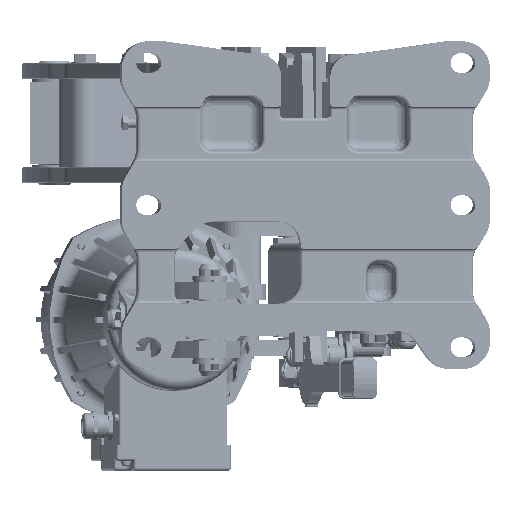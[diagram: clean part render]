
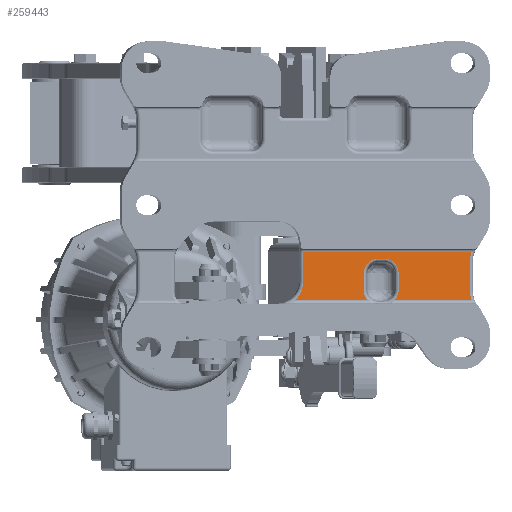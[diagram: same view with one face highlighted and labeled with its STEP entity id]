
A CAD part, front view. The second image highlights one B-rep face of the part: STEP entity #259443.
In plain terms, the highlighted planar face has unit normal (0.127, -0.992, 0).
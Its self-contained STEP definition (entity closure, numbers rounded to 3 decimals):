
#16854=DIRECTION('',(0.,0.,1.));
#16855=VECTOR('',#16854,26.151);
#16856=CARTESIAN_POINT('',(379.961,-511.901,
-153.075));
#16857=LINE('',#16856,#16855);
#16885=CARTESIAN_POINT('',(381.439,-511.712,
-162.103));
#17263=CARTESIAN_POINT('',(219.911,-532.388,
-162.103));
#17385=DIRECTION('',(0.992,0.127,0.));
#17386=VECTOR('',#17385,67.339);
#17387=CARTESIAN_POINT('',(219.911,-532.388,
-162.103));
#17388=LINE('',#17387,#17386);
#17392=CARTESIAN_POINT('',(407.841,-508.333,
-126.925));
#17393=DIRECTION('',(0.127,-0.992,0.));
#17394=DIRECTION('',(-0.939,-0.12,0.321));
#17395=AXIS2_PLACEMENT_3D('',#17392,#17393,#17394);
#17400=CARTESIAN_POINT('',(407.841,-508.333,
-153.075));
#17401=DIRECTION('',(0.127,-0.992,0.));
#17402=DIRECTION('',(-0.992,-0.127,0.));
#17403=AXIS2_PLACEMENT_3D('',#17400,#17401,#17402);
#17408=CARTESIAN_POINT('',(301.211,-521.981,-152.5));
#17409=DIRECTION('',(0.127,-0.992,0.));
#17410=DIRECTION('',(0.702,0.09,-0.706));
#17411=AXIS2_PLACEMENT_3D('',#17408,#17409,#17410);
#17416=CARTESIAN_POINT('',(301.211,-521.981,-137.5));
#17417=DIRECTION('',(0.127,-0.992,0.));
#17418=DIRECTION('',(0.992,0.127,0.));
#17419=AXIS2_PLACEMENT_3D('',#17416,#17417,#17418);
#17424=CARTESIAN_POINT('',(296.251,-522.616,-137.5));
#17425=DIRECTION('',(0.127,-0.992,0.));
#17426=DIRECTION('',(0.,0.,1.));
#17427=AXIS2_PLACEMENT_3D('',#17424,#17425,#17426);
#17432=CARTESIAN_POINT('',(296.251,-522.616,-152.5));
#17433=DIRECTION('',(0.127,-0.992,0.));
#17434=DIRECTION('',(-0.992,-0.127,0.));
#17435=AXIS2_PLACEMENT_3D('',#17432,#17433,#17434);
#17440=CARTESIAN_POINT('',(204.5,-534.36,-145.));
#17441=DIRECTION('',(0.127,-0.992,0.));
#17442=DIRECTION('',(0.667,0.085,-0.74));
#17443=AXIS2_PLACEMENT_3D('',#17440,#17441,#17442);
#17456=DIRECTION('',(-0.992,-0.127,
0.));
#17457=VECTOR('',#17456,155.276);
#17458=CARTESIAN_POINT('',(381.439,-511.712,
-117.897));
#17459=LINE('',#17458,#17457);
#17649=DIRECTION('',(0.,0.,-1.));
#17650=VECTOR('',#17649,27.103);
#17651=CARTESIAN_POINT('',(227.419,-531.427,
-117.897));
#17652=LINE('',#17651,#17650);
#17912=DIRECTION('',(0.992,0.127,0.));
#17913=VECTOR('',#17912,71.259);
#17914=CARTESIAN_POINT('',(310.757,-520.759,
-162.103));
#17915=LINE('',#17914,#17913);
#18030=DIRECTION('',(0.,0.,1.));
#18031=VECTOR('',#18030,15.);
#18032=CARTESIAN_POINT('',(282.766,-524.342,
-152.5));
#18033=LINE('',#18032,#18031);
#18068=DIRECTION('',(0.992,0.127,0.));
#18069=VECTOR('',#18068,5.);
#18070=CARTESIAN_POINT('',(296.251,-522.616,
-123.905));
#18071=LINE('',#18070,#18069);
#18106=DIRECTION('',(0.,0.,-1.));
#18107=VECTOR('',#18106,15.);
#18108=CARTESIAN_POINT('',(314.696,-520.255,
-137.5));
#18109=LINE('',#18108,#18107);
#210555=CARTESIAN_POINT('',(379.961,-511.901,
-153.075));
#210556=VERTEX_POINT('',#210555);
#210557=CARTESIAN_POINT('',(379.961,-511.901,
-126.925));
#210558=VERTEX_POINT('',#210557);
#210563=VERTEX_POINT('',#16885);
#210590=VERTEX_POINT('',#17263);
#210594=CARTESIAN_POINT('',(227.419,-531.427,-145.));
#210595=VERTEX_POINT('',#210594);
#210596=CARTESIAN_POINT('',(286.705,-523.838,
-162.103));
#210597=VERTEX_POINT('',#210596);
#210598=CARTESIAN_POINT('',(381.439,-511.712,
-117.897));
#210599=CARTESIAN_POINT('',(227.419,-531.427,
-117.897));
#210600=VERTEX_POINT('',#210598);
#210601=VERTEX_POINT('',#210599);
#210602=CARTESIAN_POINT('',(310.757,-520.759,
-162.103));
#210603=VERTEX_POINT('',#210602);
#210604=CARTESIAN_POINT('',(314.696,-520.255,
-152.5));
#210605=VERTEX_POINT('',#210604);
#210606=CARTESIAN_POINT('',(314.696,-520.255,
-137.5));
#210607=VERTEX_POINT('',#210606);
#210608=CARTESIAN_POINT('',(301.211,-521.981,
-123.905));
#210609=VERTEX_POINT('',#210608);
#210610=CARTESIAN_POINT('',(296.251,-522.616,
-123.905));
#210611=VERTEX_POINT('',#210610);
#210612=CARTESIAN_POINT('',(282.766,-524.342,
-137.5));
#210613=VERTEX_POINT('',#210612);
#210614=CARTESIAN_POINT('',(282.766,-524.342,
-152.5));
#210615=VERTEX_POINT('',#210614);
#259410=CARTESIAN_POINT('',(229.297,-531.186,0.));
#259411=DIRECTION('',(-0.127,0.992,0.));
#259412=DIRECTION('',(0.,0.,1.));
#259413=AXIS2_PLACEMENT_3D('',#259410,#259411,#259412);
#259414=PLANE('',#259413);
#259416=ORIENTED_EDGE('',*,*,#259415,.F.);
#259418=ORIENTED_EDGE('',*,*,#259417,.T.);
#259419=ORIENTED_EDGE('',*,*,#258516,.F.);
#259420=ORIENTED_EDGE('',*,*,#258546,.T.);
#259422=ORIENTED_EDGE('',*,*,#259421,.F.);
#259424=ORIENTED_EDGE('',*,*,#259423,.T.);
#259426=ORIENTED_EDGE('',*,*,#259425,.F.);
#259428=ORIENTED_EDGE('',*,*,#259427,.T.);
#259430=ORIENTED_EDGE('',*,*,#259429,.F.);
#259432=ORIENTED_EDGE('',*,*,#259431,.T.);
#259434=ORIENTED_EDGE('',*,*,#259433,.F.);
#259436=ORIENTED_EDGE('',*,*,#259435,.T.);
#259437=ORIENTED_EDGE('',*,*,#259391,.F.);
#259438=ORIENTED_EDGE('',*,*,#259201,.T.);
#259440=ORIENTED_EDGE('',*,*,#259439,.F.);
#259441=EDGE_LOOP('',(#259416,#259418,#259419,#259420,#259422,#259424,#259426,
#259428,#259430,#259432,#259434,#259436,#259437,#259438,#259440));
#259442=FACE_OUTER_BOUND('',#259441,.F.);
#259443=ADVANCED_FACE('',(#259442),#259414,.F.);
#17396=CIRCLE('',#17395,28.107);
#17404=CIRCLE('',#17403,28.107);
#17412=CIRCLE('',#17411,13.595);
#17420=CIRCLE('',#17419,13.595);
#17428=CIRCLE('',#17427,13.595);
#17436=CIRCLE('',#17435,13.595);
#17444=CIRCLE('',#17443,23.107);
#258516=EDGE_CURVE('',#210556,#210558,#16857,.T.);
#258546=EDGE_CURVE('',#210556,#210563,#17404,.T.);
#259201=EDGE_CURVE('',#210590,#210595,#17444,.T.);
#259391=EDGE_CURVE('',#210590,#210597,#17388,.T.);
#259415=EDGE_CURVE('',#210600,#210601,#17459,.T.);
#259417=EDGE_CURVE('',#210600,#210558,#17396,.T.);
#259421=EDGE_CURVE('',#210603,#210563,#17915,.T.);
#259423=EDGE_CURVE('',#210603,#210605,#17412,.T.);
#259425=EDGE_CURVE('',#210607,#210605,#18109,.T.);
#259427=EDGE_CURVE('',#210607,#210609,#17420,.T.);
#259429=EDGE_CURVE('',#210611,#210609,#18071,.T.);
#259431=EDGE_CURVE('',#210611,#210613,#17428,.T.);
#259433=EDGE_CURVE('',#210615,#210613,#18033,.T.);
#259435=EDGE_CURVE('',#210615,#210597,#17436,.T.);
#259439=EDGE_CURVE('',#210601,#210595,#17652,.T.);
